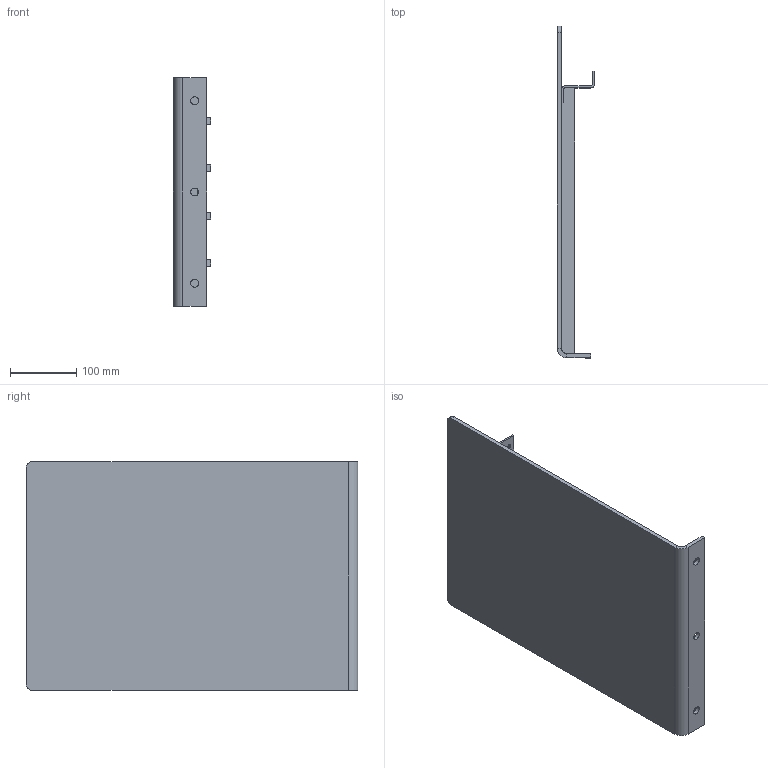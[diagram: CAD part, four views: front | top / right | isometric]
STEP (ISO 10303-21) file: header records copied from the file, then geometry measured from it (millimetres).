
FILE_DESCRIPTION (( 'STEP AP214' ), '1' );
FILE_NAME ('BENCH 1 END.STEP', '2026-02-23T08:01:47', ( '' ), ( '' ), 'SwSTEP 2.0', 'SolidWorks 2025', '' );
FILE_SCHEMA (( 'AUTOMOTIVE_DESIGN' ));
Length unit declared in the file: millimetre
Products named in the file (4): Part5^BENCH 1; Part2^BENCH 1; BENCH 1 END; Part3^BENCH 1
Assembly tree (4 placements, depth 2):
  BENCH 1 END
    Part2^BENCH 1
    Part3^BENCH 1
    Part5^BENCH 1  x2
Bounding box: 56 x 500 x 345 mm (x, y, z)
Volume: 1224527.6 mm3; surface area: 464535.7 mm2
Topology: 4 solids, 4 shells, 102 faces, 234 edges, 140 vertices
Faces by surface type: plane 72, cylinder 30
Entity records: 2757 total; most frequent: DIRECTION 478, CARTESIAN_POINT 445, ORIENTED_EDGE 432, EDGE_CURVE 216, AXIS2_PLACEMENT_3D 161, VECTOR 156, LINE 156, VERTEX_POINT 128
